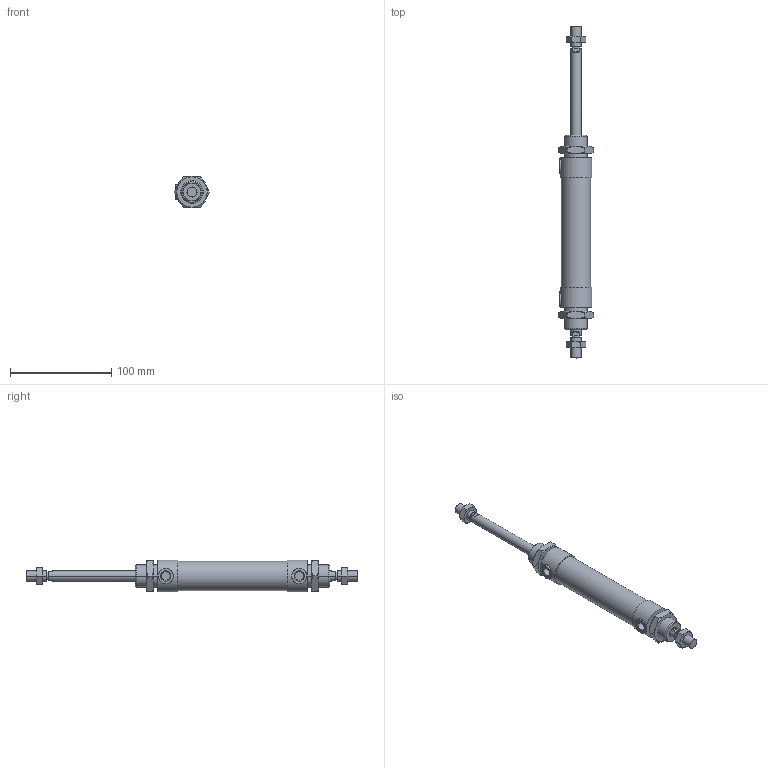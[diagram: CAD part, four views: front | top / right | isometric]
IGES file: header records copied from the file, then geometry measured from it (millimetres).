
Global section: file name: No Iges File Name specified; native system: AutoDesk Inventor R10; preprocessor: AutoDesk Inventor Iges Exporter R10; author: No Author specified; organization: No Organization specified; date: 20060105.143612; units: millimetre
Bounding box: 34.64 x 328 x 31.5 mm (x, y, z)
Volume: 137139.1 mm3; surface area: 41155.2 mm2
Topology: 6 solids, 6 shells, 185 faces, 397 edges, 232 vertices
Faces by surface type: cone 68, plane 62, cylinder 21, bspline 20, revolution 14
Full cylindrical faces by diameter (mm): 29 x1, 31.5 x2
